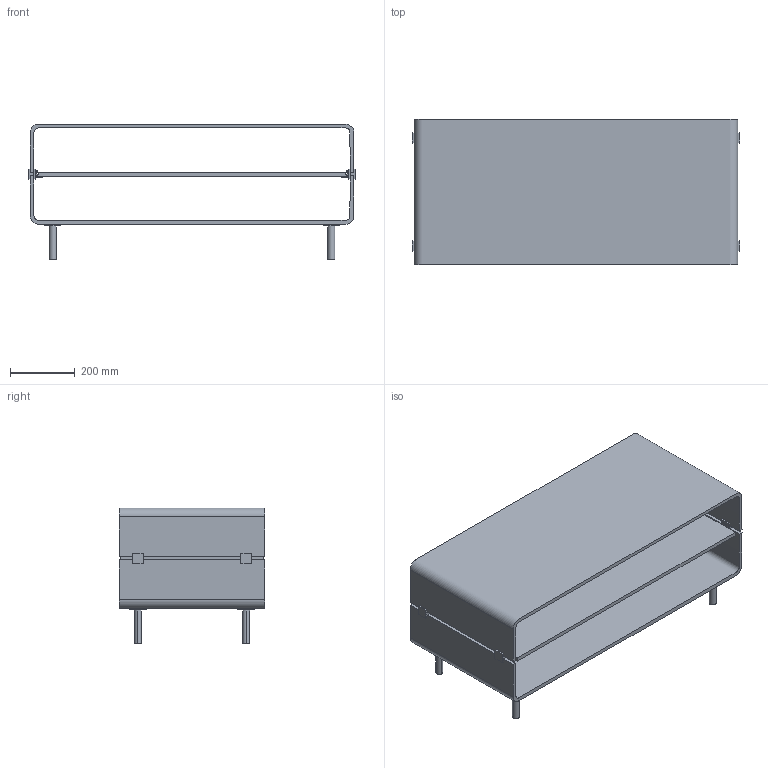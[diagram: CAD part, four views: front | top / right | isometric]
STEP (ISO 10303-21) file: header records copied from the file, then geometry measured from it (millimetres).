
FILE_DESCRIPTION(/* description */ (''),/* implementation_level */ '2;1');
FILE_NAME(/* name */ '280.386 - C&C Large piedini',/* time_stamp */ '2010-11-04T15:28:56+01:00',/* author */ (''),/* organization */ (''),/* preprocessor_version */ 'ST-DEVELOPER v10',/* originating_system */ '',/* authorisation */ '');
FILE_SCHEMA (('CONFIG_CONTROL_DESIGN'));
Length unit declared in the file: centimetre
Products named in the file (1): 1
Bounding box: 1010 x 450 x 420 mm (x, y, z)
Volume: 23168811.1 mm3; surface area: 3301219 mm2
Topology: 19 solids, 19 shells, 148 faces, 330 edges, 216 vertices
Faces by surface type: plane 120, bspline 28
Entity records: 3842 total; most frequent: CARTESIAN_POINT 1454, ORIENTED_EDGE 644, EDGE_CURVE 322, B_SPLINE_CURVE_WITH_KNOTS 266, VERTEX_POINT 216, EDGE_LOOP 152, ADVANCED_FACE 148, FACE_OUTER_BOUND 148
